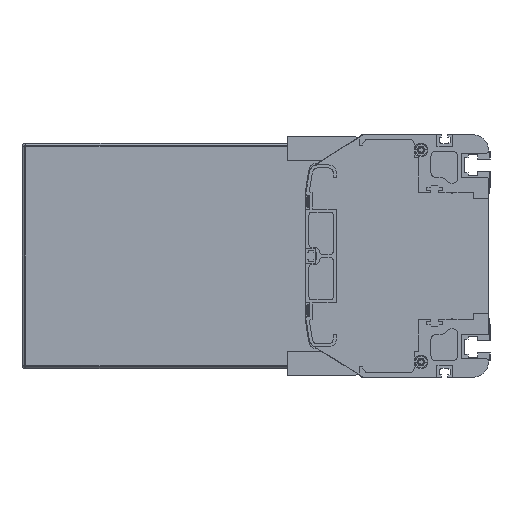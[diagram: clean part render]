
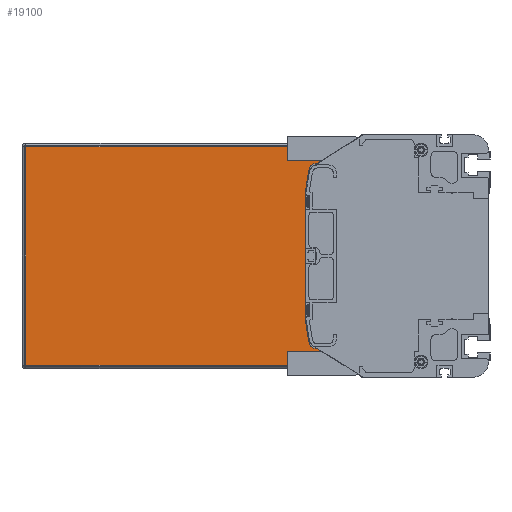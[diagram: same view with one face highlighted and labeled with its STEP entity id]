
A CAD part, left-side view. The second image highlights one B-rep face of the part: STEP entity #19100.
In plain terms, the highlighted planar face has unit normal (-1, 0, 0).
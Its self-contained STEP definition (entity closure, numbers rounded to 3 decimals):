
#737=DIRECTION('',(0.,1.,0.));
#738=VECTOR('',#737,220.5);
#739=CARTESIAN_POINT('',(1386.5,86.,72.));
#740=LINE('',#739,#738);
#788=DIRECTION('',(0.,-1.,0.));
#789=VECTOR('',#788,220.5);
#790=CARTESIAN_POINT('',(1386.5,306.5,-72.));
#791=LINE('',#790,#789);
#847=DIRECTION('',(0.,0.,-1.));
#848=VECTOR('',#847,144.);
#849=CARTESIAN_POINT('',(1386.5,306.5,72.));
#850=LINE('',#849,#848);
#882=CARTESIAN_POINT('',(1386.5,114.728,56.));
#883=DIRECTION('',(-1.,0.,0.));
#884=DIRECTION('',(0.,0.,1.));
#885=AXIS2_PLACEMENT_3D('',#882,#883,#884);
#887=DIRECTION('',(0.,0.156,-0.988));
#888=VECTOR('',#887,14.963);
#889=CARTESIAN_POINT('',(1386.5,119.666,56.78));
#890=LINE('',#889,#888);
#891=DIRECTION('',(0.,-0.156,-0.988));
#892=VECTOR('',#891,14.963);
#893=CARTESIAN_POINT('',(1386.5,122.,-42.));
#894=LINE('',#893,#892);
#895=CARTESIAN_POINT('',(1386.5,114.728,-56.));
#896=DIRECTION('',(-1.,0.,0.));
#897=DIRECTION('',(0.,0.988,-0.156));
#898=AXIS2_PLACEMENT_3D('',#895,#896,#897);
#905=DIRECTION('',(0.,0.,-1.));
#906=VECTOR('',#905,11.);
#907=CARTESIAN_POINT('',(1386.5,86.,-61.));
#908=LINE('',#907,#906);
#914=DIRECTION('',(0.,0.,-1.));
#915=VECTOR('',#914,11.);
#916=CARTESIAN_POINT('',(1386.5,86.,72.));
#917=LINE('',#916,#915);
#9416=DIRECTION('',(0.,1.,0.));
#9417=VECTOR('',#9416,28.728);
#9418=CARTESIAN_POINT('',(1386.5,86.,-61.));
#9419=LINE('',#9418,#9417);
#9436=DIRECTION('',(0.,0.,1.));
#9437=VECTOR('',#9436,84.);
#9438=CARTESIAN_POINT('',(1386.5,122.,-42.));
#9439=LINE('',#9438,#9437);
#9460=DIRECTION('',(0.,-1.,0.));
#9461=VECTOR('',#9460,28.728);
#9462=CARTESIAN_POINT('',(1386.5,114.728,61.));
#9463=LINE('',#9462,#9461);
#14410=CARTESIAN_POINT('',(1386.5,306.5,-72.));
#14411=CARTESIAN_POINT('',(1386.5,86.,-72.));
#14412=VERTEX_POINT('',#14410);
#14413=VERTEX_POINT('',#14411);
#14414=CARTESIAN_POINT('',(1386.5,86.,-61.));
#14415=VERTEX_POINT('',#14414);
#14416=CARTESIAN_POINT('',(1386.5,114.728,-61.));
#14417=VERTEX_POINT('',#14416);
#14418=CARTESIAN_POINT('',(1386.5,119.666,-56.78));
#14419=VERTEX_POINT('',#14418);
#14420=CARTESIAN_POINT('',(1386.5,122.,-42.));
#14421=VERTEX_POINT('',#14420);
#14422=CARTESIAN_POINT('',(1386.5,122.,42.));
#14423=VERTEX_POINT('',#14422);
#14424=CARTESIAN_POINT('',(1386.5,119.666,56.78));
#14425=VERTEX_POINT('',#14424);
#14426=CARTESIAN_POINT('',(1386.5,114.728,61.));
#14427=VERTEX_POINT('',#14426);
#14428=CARTESIAN_POINT('',(1386.5,86.,61.));
#14429=VERTEX_POINT('',#14428);
#14430=CARTESIAN_POINT('',(1386.5,86.,72.));
#14431=VERTEX_POINT('',#14430);
#14432=CARTESIAN_POINT('',(1386.5,306.5,72.));
#14433=VERTEX_POINT('',#14432);
#19072=CARTESIAN_POINT('',(1386.5,196.25,0.));
#19073=DIRECTION('',(1.,0.,0.));
#19074=DIRECTION('',(0.,0.,-1.));
#19075=AXIS2_PLACEMENT_3D('',#19072,#19073,#19074);
#19076=PLANE('',#19075);
#19077=ORIENTED_EDGE('',*,*,#18945,.F.);
#19078=ORIENTED_EDGE('',*,*,#19041,.F.);
#19079=ORIENTED_EDGE('',*,*,#18898,.F.);
#19081=ORIENTED_EDGE('',*,*,#19080,.T.);
#19083=ORIENTED_EDGE('',*,*,#19082,.F.);
#19085=ORIENTED_EDGE('',*,*,#19084,.T.);
#19087=ORIENTED_EDGE('',*,*,#19086,.T.);
#19089=ORIENTED_EDGE('',*,*,#19088,.F.);
#19091=ORIENTED_EDGE('',*,*,#19090,.T.);
#19093=ORIENTED_EDGE('',*,*,#19092,.T.);
#19095=ORIENTED_EDGE('',*,*,#19094,.F.);
#19097=ORIENTED_EDGE('',*,*,#19096,.T.);
#19098=EDGE_LOOP('',(#19077,#19078,#19079,#19081,#19083,#19085,#19087,#19089,
#19091,#19093,#19095,#19097));
#19099=FACE_OUTER_BOUND('',#19098,.F.);
#19100=ADVANCED_FACE('',(#19099),#19076,.F.);
#886=CIRCLE('',#885,5.);
#899=CIRCLE('',#898,5.);
#18898=EDGE_CURVE('',#14431,#14433,#740,.T.);
#18945=EDGE_CURVE('',#14412,#14413,#791,.T.);
#19041=EDGE_CURVE('',#14433,#14412,#850,.T.);
#19080=EDGE_CURVE('',#14431,#14429,#917,.T.);
#19082=EDGE_CURVE('',#14427,#14429,#9463,.T.);
#19084=EDGE_CURVE('',#14427,#14425,#886,.T.);
#19086=EDGE_CURVE('',#14425,#14423,#890,.T.);
#19088=EDGE_CURVE('',#14421,#14423,#9439,.T.);
#19090=EDGE_CURVE('',#14421,#14419,#894,.T.);
#19092=EDGE_CURVE('',#14419,#14417,#899,.T.);
#19094=EDGE_CURVE('',#14415,#14417,#9419,.T.);
#19096=EDGE_CURVE('',#14415,#14413,#908,.T.);
